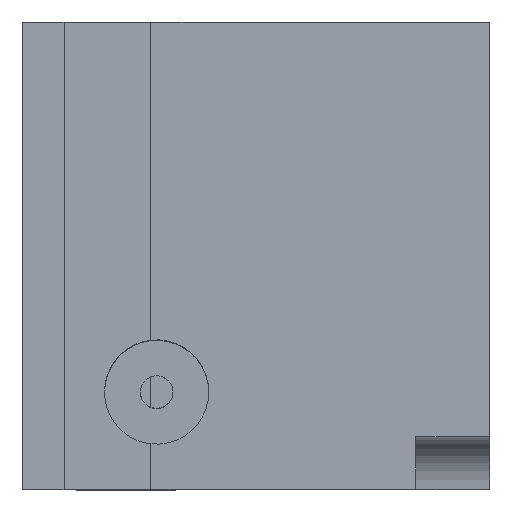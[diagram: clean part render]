
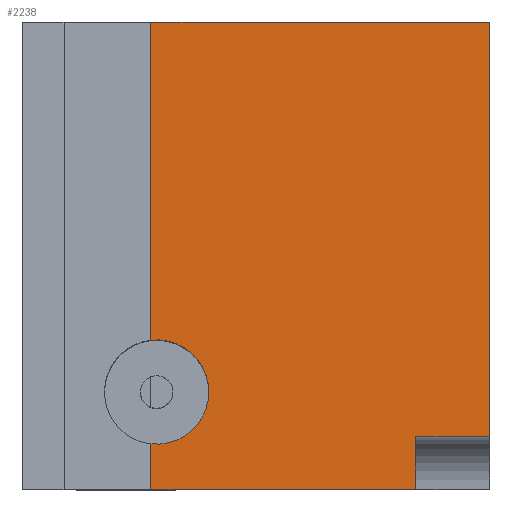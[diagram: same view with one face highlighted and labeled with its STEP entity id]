
A CAD part, top view. The second image highlights one B-rep face of the part: STEP entity #2238.
In plain terms, the highlighted planar face has unit normal (0, 0, 1).
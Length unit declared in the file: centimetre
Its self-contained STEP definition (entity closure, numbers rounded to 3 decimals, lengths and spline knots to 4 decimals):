
#1 = LINE ( 'NONE', #406, #1157 ) ;
#15 = DIRECTION ( 'NONE',  ( 1., 0., 0. ) ) ;
#44 = VECTOR ( 'NONE', #2234, 100. ) ;
#80 = EDGE_CURVE ( 'NONE', #2188, #1834, #731, .T. ) ;
#93 = VERTEX_POINT ( 'NONE', #1940 ) ;
#122 = DIRECTION ( 'NONE',  ( 1., 0., 0. ) ) ;
#139 = CIRCLE ( 'NONE', #1206, 111.6451 ) ;
#225 = EDGE_CURVE ( 'NONE', #2517, #2471, #2181, .T. ) ;
#319 = LINE ( 'NONE', #1124, #1091 ) ;
#322 = ORIENTED_EDGE ( 'NONE', *, *, #1950, .F. ) ;
#334 = VECTOR ( 'NONE', #361, 100. ) ;
#361 = DIRECTION ( 'NONE',  ( 0., 1., 0. ) ) ;
#406 = CARTESIAN_POINT ( 'NONE',  ( 842.0203, 112.3247, 1000. ) ) ;
#520 = ORIENTED_EDGE ( 'NONE', *, *, #225, .T. ) ;
#582 = VECTOR ( 'NONE', #944, 100. ) ;
#615 = LINE ( 'NONE', #1664, #2520 ) ;
#619 = CIRCLE ( 'NONE', #836, 111.6451 ) ;
#635 = CARTESIAN_POINT ( 'NONE',  ( 0., 0., 1000. ) ) ;
#721 = AXIS2_PLACEMENT_3D ( 'NONE', #1523, #1793, #122 ) ;
#726 = DIRECTION ( 'NONE',  ( 0., 0., 1. ) ) ;
#731 = LINE ( 'NONE', #1549, #582 ) ;
#746 = DIRECTION ( 'NONE',  ( 0., -1., 0. ) ) ;
#785 = EDGE_CURVE ( 'NONE', #1714, #1576, #615, .T. ) ;
#791 = LINE ( 'NONE', #2644, #2223 ) ;
#812 = DIRECTION ( 'NONE',  ( -1., 0., 0. ) ) ;
#821 = ORIENTED_EDGE ( 'NONE', *, *, #1928, .T. ) ;
#836 = AXIS2_PLACEMENT_3D ( 'NONE', #2190, #726, #2415 ) ;
#906 = CARTESIAN_POINT ( 'NONE',  ( 275.1256, 97.0338, 1000. ) ) ;
#910 = ORIENTED_EDGE ( 'NONE', *, *, #80, .T. ) ;
#944 = DIRECTION ( 'NONE',  ( 0., -1., 0. ) ) ;
#1020 = ORIENTED_EDGE ( 'NONE', *, *, #1114, .T. ) ;
#1041 = ORIENTED_EDGE ( 'NONE', *, *, #2053, .F. ) ;
#1047 = LINE ( 'NONE', #635, #44 ) ;
#1091 = VECTOR ( 'NONE', #746, 100. ) ;
#1114 = EDGE_CURVE ( 'NONE', #1475, #93, #319, .T. ) ;
#1124 = CARTESIAN_POINT ( 'NONE',  ( 275.1256, 1000., 1000. ) ) ;
#1157 = VECTOR ( 'NONE', #812, 100. ) ;
#1163 = CARTESIAN_POINT ( 'NONE',  ( 842.0203, 0., 1000. ) ) ;
#1171 = EDGE_LOOP ( 'NONE', ( #1041, #910, #821, #520, #322, #2328, #2044, #1020, #1706 ) ) ;
#1206 = AXIS2_PLACEMENT_3D ( 'NONE', #2248, #1855, #15 ) ;
#1251 = VERTEX_POINT ( 'NONE', #1287 ) ;
#1287 = CARTESIAN_POINT ( 'NONE',  ( 398.9918, 208.008, 1000. ) ) ;
#1354 = FACE_OUTER_BOUND ( 'NONE', #1171, .T. ) ;
#1366 = PLANE ( 'NONE',  #721 ) ;
#1456 = CARTESIAN_POINT ( 'NONE',  ( 842.0203, 0., 1000. ) ) ;
#1475 = VERTEX_POINT ( 'NONE', #1653 ) ;
#1523 = CARTESIAN_POINT ( 'NONE',  ( 0., 0., 1000. ) ) ;
#1549 = CARTESIAN_POINT ( 'NONE',  ( 275.1256, 1000., 1000. ) ) ;
#1576 = VERTEX_POINT ( 'NONE', #1578 ) ;
#1577 = EDGE_CURVE ( 'NONE', #1251, #93, #619, .T. ) ;
#1578 = CARTESIAN_POINT ( 'NONE',  ( 1000., 1000., 1000. ) ) ;
#1649 = CARTESIAN_POINT ( 'NONE',  ( 1000., 112.3247, 1000. ) ) ;
#1653 = CARTESIAN_POINT ( 'NONE',  ( 275.1256, 1000., 1000. ) ) ;
#1664 = CARTESIAN_POINT ( 'NONE',  ( 1000., 1000., 1000. ) ) ;
#1706 = ORIENTED_EDGE ( 'NONE', *, *, #1577, .F. ) ;
#1714 = VERTEX_POINT ( 'NONE', #1649 ) ;
#1790 = CARTESIAN_POINT ( 'NONE',  ( 275.1256, 0., 1000. ) ) ;
#1793 = DIRECTION ( 'NONE',  ( 0., 0., 1. ) ) ;
#1834 = VERTEX_POINT ( 'NONE', #1790 ) ;
#1855 = DIRECTION ( 'NONE',  ( 0., 0., 1. ) ) ;
#1880 = DIRECTION ( 'NONE',  ( 0., 1., 0. ) ) ;
#1914 = CARTESIAN_POINT ( 'NONE',  ( 842.0203, 112.3247, 1000. ) ) ;
#1928 = EDGE_CURVE ( 'NONE', #1834, #2517, #1047, .T. ) ;
#1940 = CARTESIAN_POINT ( 'NONE',  ( 275.1256, 318.9821, 1000. ) ) ;
#1950 = EDGE_CURVE ( 'NONE', #1714, #2471, #1, .T. ) ;
#2025 = EDGE_CURVE ( 'NONE', #1576, #1475, #791, .T. ) ;
#2044 = ORIENTED_EDGE ( 'NONE', *, *, #2025, .T. ) ;
#2053 = EDGE_CURVE ( 'NONE', #2188, #1251, #139, .T. ) ;
#2181 = LINE ( 'NONE', #1163, #334 ) ;
#2188 = VERTEX_POINT ( 'NONE', #906 ) ;
#2190 = CARTESIAN_POINT ( 'NONE',  ( 287.3467, 208.008, 1000. ) ) ;
#2223 = VECTOR ( 'NONE', #2625, 100. ) ;
#2234 = DIRECTION ( 'NONE',  ( 1., 0., 0. ) ) ;
#2238 = ADVANCED_FACE ( 'NONE', ( #1354 ), #1366, .T. ) ;
#2248 = CARTESIAN_POINT ( 'NONE',  ( 287.3467, 208.008, 1000. ) ) ;
#2328 = ORIENTED_EDGE ( 'NONE', *, *, #785, .T. ) ;
#2415 = DIRECTION ( 'NONE',  ( 1., 0., 0. ) ) ;
#2471 = VERTEX_POINT ( 'NONE', #1914 ) ;
#2517 = VERTEX_POINT ( 'NONE', #1456 ) ;
#2520 = VECTOR ( 'NONE', #1880, 100. ) ;
#2625 = DIRECTION ( 'NONE',  ( -1., 0., 0. ) ) ;
#2644 = CARTESIAN_POINT ( 'NONE',  ( 0., 1000., 1000. ) ) ;
